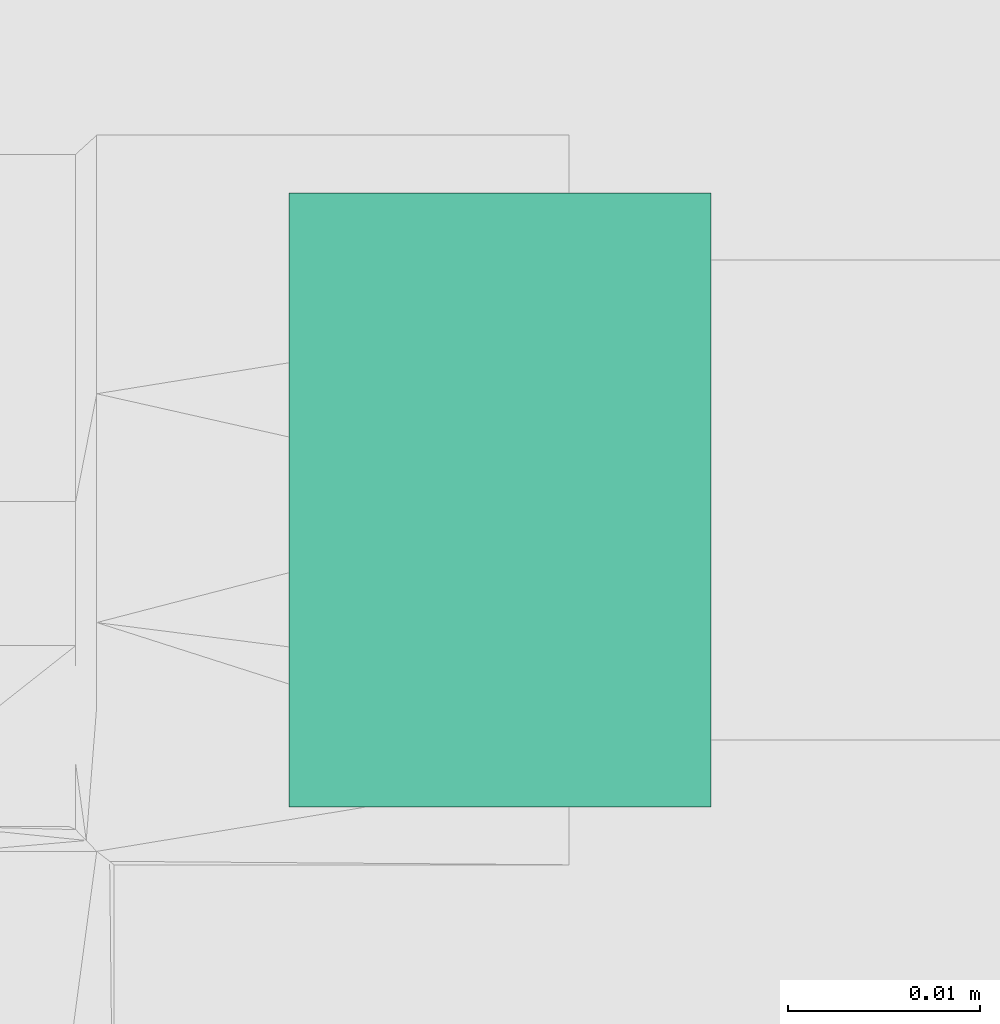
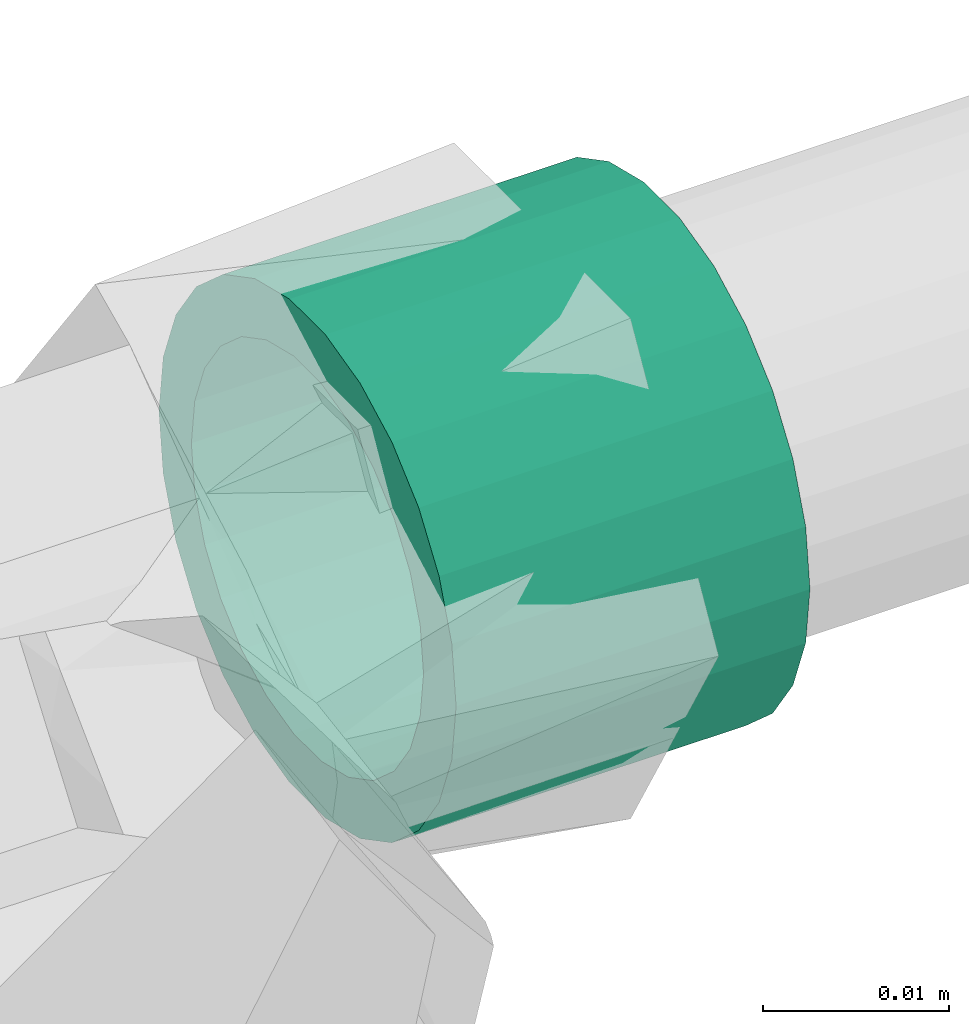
# One storey, part 153 of 166: 1 flow fitting.
"""IFC2X3 building model written with IfcOpenShell, lengths in metres."""

from ifc_helpers import new_model, entity, si_unit, converted_unit, direction, frame, frame_2d, origin, place, context, subcontext, project, spatial, hollow_circle, extrude, source, transform, mapped, material, type_object, type_shapes, element, save


model = new_model("IFC2X3")

# Units and contexts
model_context = context("Model", 3, precision=1e-05, world=origin(), true_north=direction((6.123233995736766e-17, 1.0)))
body_context = subcontext(model_context, "Body", "Model", "MODEL_VIEW")
ifc_project = project(units=[si_unit("LENGTHUNIT", "METRE"), converted_unit("PLANEANGLEUNIT", "DEGREE", entity("IfcPlaneAngleMeasure", 0.017453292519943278), si_unit("PLANEANGLEUNIT", "RADIAN"), dimensions=[0, 0, 0, 0, 0, 0, 0]), si_unit("AREAUNIT", "SQUARE_METRE")], contexts=[model_context])

# Site, building, storey
site_placement = place(None, origin())
site = spatial("IfcSite", under=ifc_project, at=site_placement, Name="Default", CompositionType="ELEMENT")
building_placement = place(site_placement, origin())
building = spatial("IfcBuilding", under=site, at=building_placement, Name="CASA DE ACOLHIDA PARA IDOSOS", CompositionType="ELEMENT")
storey_placement = place(building_placement, frame((0.0, 0.0, -1.7499999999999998)))
storey = spatial("IfcBuildingStorey", under=building, at=storey_placement, Name="IMPLANTAÇÃO DRENAGEM", CompositionType="ELEMENT", Elevation=-1.7499999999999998)

# Flow fitting
ifc_material = material(Name="PVC Marrom")
pipe_fitting_type = type_object("IfcPipeFittingType", Name="AF_Soldavel_Bucha de Reducao Curta:Standard", PredefinedType="NOTDEFINED", material=ifc_material)
shared_shape = source(origin(), body_context, "Body", "SweptSolid", [
    extrude(hollow_circle(Radius=0.016, WallThickness=0.0034999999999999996, at=frame_2d((0.0, -7.20339910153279e-17), x_axis=(1.0, 0.0))), frame((0.0, 0.0, 0.0), z_axis=(1.0, 0.0, 0.0), x_axis=(0.0, 1.0, 0.0)), (0.0, 0.0, 1.0), 0.02200000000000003),
])
type_shapes(pipe_fitting_type, [shared_shape])
flow_fitting_placement = place(storey_placement, frame((20.08525371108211, 9.654942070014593, -0.19999999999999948), z_axis=(0.0, 0.0, 1.0), x_axis=(-1.0, 0.0, 0.0)))
element("IfcFlowFitting", 1, at=flow_fitting_placement, inside=storey, type_object=pipe_fitting_type, material=ifc_material, Name="AF_Soldavel_Bucha de Reducao Curta:Standard", ObjectType="AF_Soldavel_Bucha de Reducao Curta:Standard", context=body_context, shape_type="MappedRepresentation", body=[
    mapped(shared_shape, transform((0.0, 0.0, 0.0), scale=1.0)),
])

save(model, "model.ifc")
